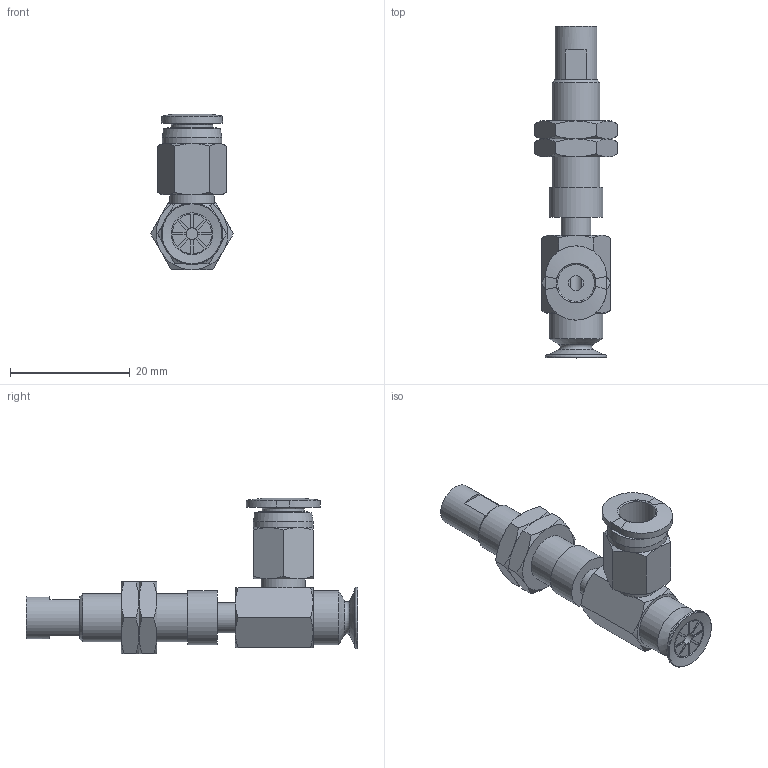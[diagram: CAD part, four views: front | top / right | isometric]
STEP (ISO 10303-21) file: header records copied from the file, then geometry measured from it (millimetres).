
FILE_DESCRIPTION(('STEP AP203'),'1');
FILE_NAME('-O.stp','2025-02-11T07:02:19',(' '),(' '),'Spatial InterOp 3D',' ',' ');
FILE_SCHEMA(('CONFIG_CONTROL_DESIGN'));
Length unit declared in the file: millimetre
Products named in the file (7): BNABPAYS-10B-3-※-O; NAPAYS-10A-3--M; NAPAYS-10A-3--F; Nut-10A-S; CONNECTOR-10A-3-PA; BPAG-10B-※_3D; PC-C_06-M5
Assembly tree (7 placements, depth 2):
  BNABPAYS-10B-3-※-O
    NAPAYS-10A-3--M
    NAPAYS-10A-3--F
    Nut-10A-S  x2
    CONNECTOR-10A-3-PA
    BPAG-10B-※_3D
    PC-C_06-M5
Bounding box: 13.86 x 55.5 x 25.98 mm (x, y, z)
Volume: 3407 mm3; surface area: 5177.2 mm2
Topology: 6 solids, 9 shells, 214 faces, 472 edges, 290 vertices
Faces by surface type: plane 92, cone 67, cylinder 35, torus 13, bspline 4, revolution 3
Full cylindrical faces by diameter (mm): 2 x2, 4 x4, 4.134 x2, 5 x4, 6 x2, 7 x3, 7.188 x2, 7.4 x1, 8 x1, 8.2 x1, 9 x2, 10 x1
Entity records: 5738 total; most frequent: CARTESIAN_POINT 1508, DIRECTION 815, ORIENTED_EDGE 716, EDGE_CURVE 360, AXIS2_PLACEMENT_3D 345, EDGE_LOOP 272, VERTEX_POINT 252, FACE_OUTER_BOUND 168
